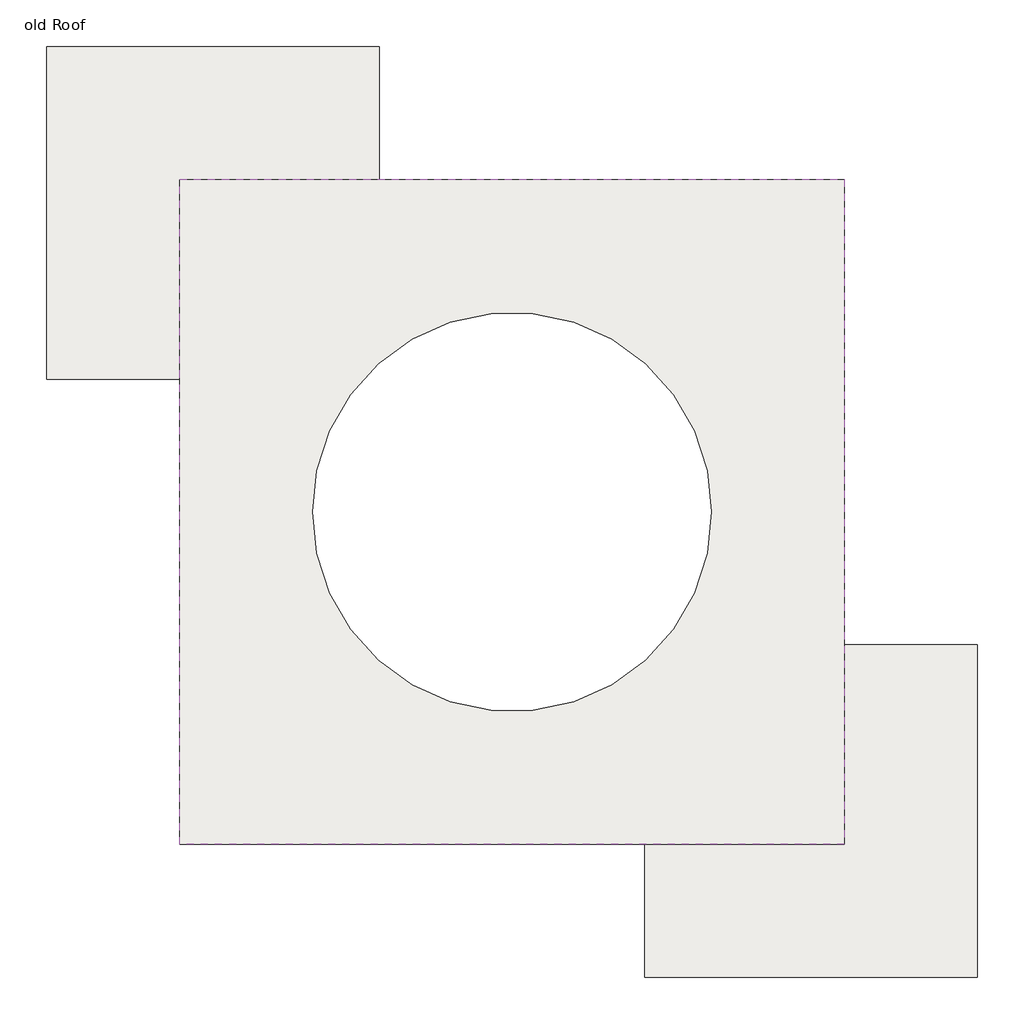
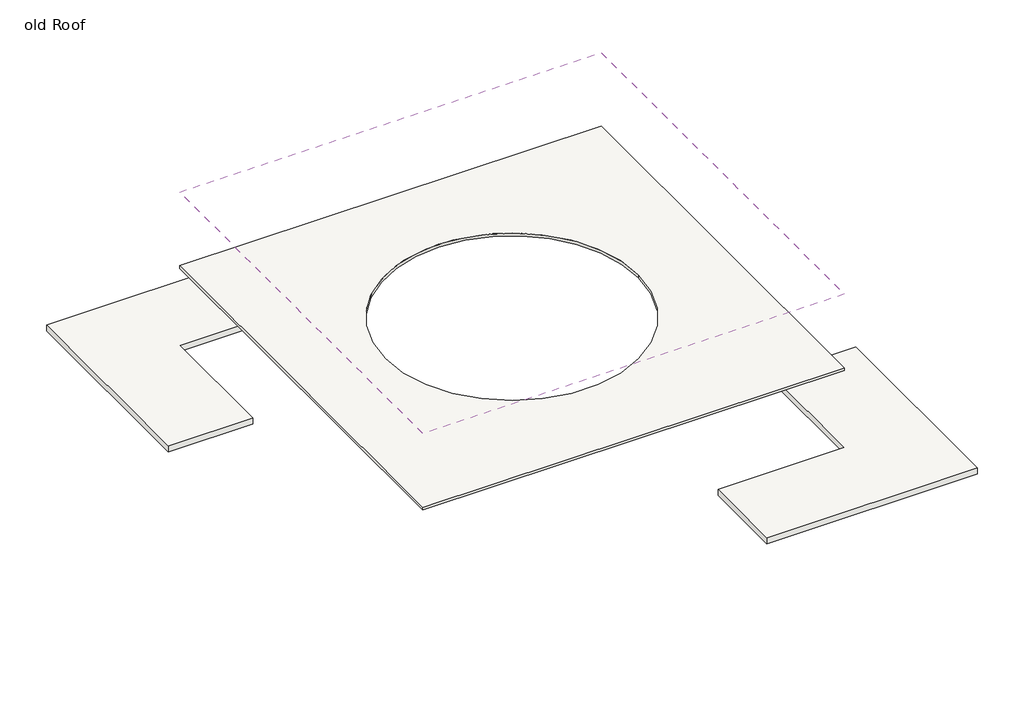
# One storey: 2 roofs, 1 slab.
"""IFC4 building model written with IfcOpenShell, lengths in millimetres."""

from ifc_helpers import new_model, si_unit, point, frame, frame_2d, origin, place, context, project, spatial, polyline, circle_curve, trimmed, segment, composite_curve, outline, extrude, element, save

model = new_model("IFC4")

# Units and contexts
model_context = context("Model", 3, world=origin())
ifc_project = project(units=[si_unit("LENGTHUNIT", "METRE", prefix="MILLI")], contexts=[model_context])

# Site, building, storey
site = spatial("IfcSite", under=ifc_project)
building = spatial("IfcBuilding", under=site)
storey = spatial("IfcBuildingStorey", under=building, Name="old Roof", Elevation=15240.0)

# Roofs
placement = place(None, origin())
element("IfcRoof", 1, ObjectType="Generic - 9\"", at=placement, inside=storey, context=model_context, shape_type="SweptSolid", body=[
    extrude(outline(polyline([(7308.8955952, 7299.8851347), (7308.8955952, -7940.1148653), (-7931.1044048, -7940.1148653), (-7931.1044048, 7299.8851347), (7308.8955952, 7299.8851347)]), holes=[composite_curve([segment(trimmed(circle_curve(frame_2d((-311.1044048, -320.1148653)), 4572.0), [point((4260.8955952, -320.1148653))], [point((-4883.1044048, -320.1148653))], True, "CARTESIAN"), True, "CONTINUOUS"), segment(trimmed(circle_curve(frame_2d((-311.1044048, -320.1148653)), 4572.0), [point((-4883.1044048, -320.1148653))], [point((4260.8955952, -320.1148653))], True, "CARTESIAN"), True, "CONTINUOUS")], self_intersect=False)]), frame((0.0, 0.0, 18059.4), z_axis=(0.0, 0.0, 1.0), x_axis=(1.0, 0.0, 0.0)), (0.0, 0.0, 1.0), 228.6),
])
element("IfcRoof", 2, ObjectType="Generic - 9\"", at=placement, inside=storey, context=model_context, shape_type="SweptSolid", body=[
    extrude(outline(polyline([(-3359.1044048, 7299.8851347), (-7931.1044048, 7299.8851347), (-7931.1044048, 2727.8851347), (-10979.1044048, 2727.8851347), (-10979.1044048, 10347.8851347), (-3359.1044048, 10347.8851347), (-3359.1044048, 7299.8851347)])), frame((0.0, 0.0, 11963.4), z_axis=(0.0, 0.0, 1.0), x_axis=(1.0, 0.0, 0.0)), (0.0, 0.0, 1.0), 228.6),
    extrude(outline(polyline([(7308.8955952, -3368.1148653), (10356.8955952, -3368.1148653), (10356.8955952, -10988.1148653), (2736.8955952, -10988.1148653), (2736.8955952, -7940.1148653), (7308.8955952, -7940.1148653), (7308.8955952, -3368.1148653)])), frame((0.0, 0.0, 11963.4), z_axis=(0.0, 0.0, 1.0), x_axis=(1.0, 0.0, 0.0)), (0.0, 0.0, 1.0), 228.6),
])

# Slab
element("IfcSlab", 3, ObjectType="LW Concrete on Metal Deck", at=placement, inside=storey, context=model_context, shape_type="SweptSolid", body=[
    extrude(outline(polyline([(7308.8955952, 7299.8851347), (7308.8955952, -7940.1148653), (-7931.1044048, -7940.1148653), (-7931.1044048, 7299.8851347), (7308.8955952, 7299.8851347)]), holes=[composite_curve([segment(trimmed(circle_curve(frame_2d((-311.1044048, -320.1148653)), 4572.0), [point((4260.8955952, -320.1148653))], [point((-4883.1044048, -320.1148653))], True, "CARTESIAN"), True, "CONTINUOUS"), segment(trimmed(circle_curve(frame_2d((-311.1044048, -320.1148653)), 4572.0), [point((-4883.1044048, -320.1148653))], [point((4260.8955952, -320.1148653))], True, "CARTESIAN"), True, "CONTINUOUS")], self_intersect=False)]), frame((0.0, 0.0, 15135.225), z_axis=(0.0, 0.0, 1.0), x_axis=(1.0, 0.0, 0.0)), (0.0, 0.0, 1.0), 104.775),
])

save(model, "model.ifc")
